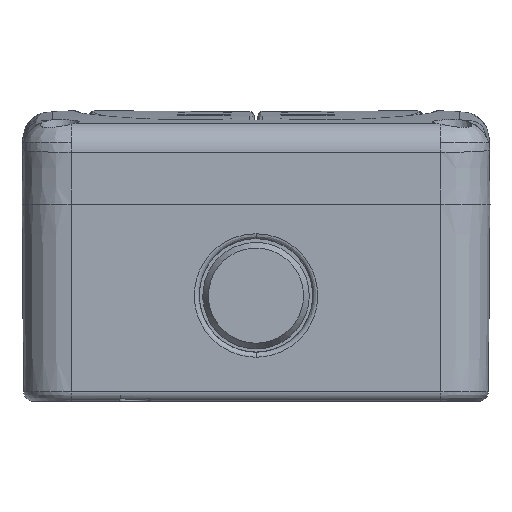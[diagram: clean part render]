
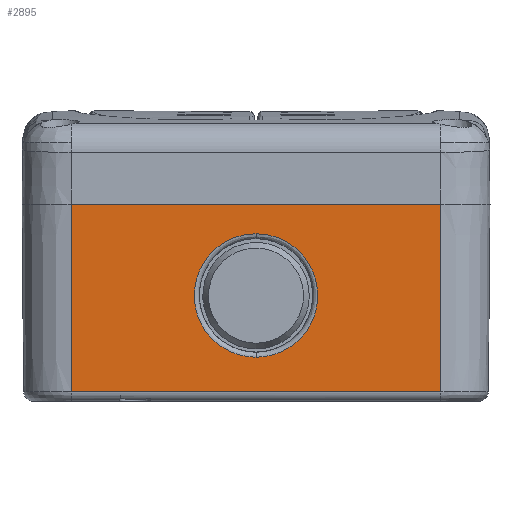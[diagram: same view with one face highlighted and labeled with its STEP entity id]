
A CAD part, front view. The second image highlights one B-rep face of the part: STEP entity #2895.
In plain terms, the highlighted planar face has unit normal (0, -1, -0.009).
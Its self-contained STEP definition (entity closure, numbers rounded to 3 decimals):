
#2564=B_SPLINE_CURVE_WITH_KNOTS('',3,(#15306,#15307,#15308,#15309,#15310,
#15311,#15312,#15313,#15314,#15315,#15316,#15317,#15318,#15319,#15320,#15321),
 .UNSPECIFIED.,.F.,.F.,(4,1,1,1,1,1,1,1,1,1,1,1,1,4),(0.,0.08,
0.155,0.231,0.317,0.414,0.48,
0.551,0.622,0.696,0.774,
0.85,0.923,1.),.UNSPECIFIED.);
#2588=B_SPLINE_CURVE_WITH_KNOTS('',3,(#16304,#16305,#16306,#16307,#16308,
#16309,#16310,#16311,#16312,#16313,#16314,#16315,#16316,#16317,#16318,#16319),
 .UNSPECIFIED.,.F.,.F.,(4,1,1,1,1,1,1,1,1,1,1,1,1,4),(0.,0.08,
0.155,0.231,0.317,0.414,0.48,
0.551,0.622,0.696,0.774,
0.85,0.923,1.),.UNSPECIFIED.);
#2662=FACE_BOUND('',#3466,.T.);
#2663=FACE_BOUND('',#3467,.T.);
#2895=ADVANCED_FACE('',(#2662,#2663),#3004,.T.);
#3004=PLANE('',#8023);
#3466=EDGE_LOOP('',(#4750,#4751,#4752,#4753));
#3467=EDGE_LOOP('',(#4754,#4755));
#4750=ORIENTED_EDGE('',*,*,#6590,.T.);
#4751=ORIENTED_EDGE('',*,*,#6591,.T.);
#4752=ORIENTED_EDGE('',*,*,#6592,.F.);
#4753=ORIENTED_EDGE('',*,*,#6593,.T.);
#4754=ORIENTED_EDGE('',*,*,#6539,.F.);
#4755=ORIENTED_EDGE('',*,*,#6594,.T.);
#5667=VERTEX_POINT('',#15322);
#5668=VERTEX_POINT('',#15323);
#5701=VERTEX_POINT('',#16121);
#5713=VERTEX_POINT('',#16298);
#5714=VERTEX_POINT('',#16299);
#5715=VERTEX_POINT('',#16302);
#6539=EDGE_CURVE('',#5667,#5668,#2564,.T.);
#6590=EDGE_CURVE('',#5713,#5714,#7107,.T.);
#6591=EDGE_CURVE('',#5714,#5701,#7108,.T.);
#6592=EDGE_CURVE('',#5715,#5701,#7109,.T.);
#6593=EDGE_CURVE('',#5715,#5713,#7110,.T.);
#6594=EDGE_CURVE('',#5667,#5668,#2588,.T.);
#7107=LINE('',#16297,#7529);
#7108=LINE('',#16300,#7530);
#7109=LINE('',#16301,#7531);
#7110=LINE('',#16303,#7532);
#7529=VECTOR('',#9207,1.);
#7530=VECTOR('',#9208,1.);
#7531=VECTOR('',#9209,1.);
#7532=VECTOR('',#9210,1.);
#8023=AXIS2_PLACEMENT_3D('',#16320,#9211,#9212);
#9207=DIRECTION('',(0.,0.009,-1.));
#9208=DIRECTION('',(1.,0.,0.));
#9209=DIRECTION('',(0.,0.009,-1.));
#9210=DIRECTION('',(-1.,0.,0.));
#9211=DIRECTION('',(0.,-1.,-0.009));
#9212=DIRECTION('',(1.,0.,0.));
#15306=CARTESIAN_POINT('',(0.,-47.448,-5.983));
#15307=CARTESIAN_POINT('',(-1.044,-47.448,-5.983));
#15308=CARTESIAN_POINT('',(-3.074,-47.446,-6.238));
#15309=CARTESIAN_POINT('',(-5.923,-47.436,-7.337));
#15310=CARTESIAN_POINT('',(-8.496,-47.42,-9.122));
#15311=CARTESIAN_POINT('',(-10.732,-47.398,-11.722));
#15312=CARTESIAN_POINT('',(-12.089,-47.371,-14.734));
#15313=CARTESIAN_POINT('',(-12.601,-47.345,-17.787));
#15314=CARTESIAN_POINT('',(-12.465,-47.321,-20.523));
#15315=CARTESIAN_POINT('',(-11.701,-47.297,-23.265));
#15316=CARTESIAN_POINT('',(-10.293,-47.274,-25.851));
#15317=CARTESIAN_POINT('',(-8.259,-47.255,-28.084));
#15318=CARTESIAN_POINT('',(-5.771,-47.24,-29.749));
#15319=CARTESIAN_POINT('',(-2.98,-47.231,-30.79));
#15320=CARTESIAN_POINT('',(-1.015,-47.229,-31.03));
#15321=CARTESIAN_POINT('',(0.,-47.229,-31.03));
#15322=CARTESIAN_POINT('',(0.,-47.448,-5.983));
#15323=CARTESIAN_POINT('',(0.,-47.229,-31.03));
#16121=CARTESIAN_POINT('',(37.5,-47.168,-38.017));
#16297=CARTESIAN_POINT('',(-37.5,-47.5,0.));
#16298=CARTESIAN_POINT('',(-37.5,-47.5,0.));
#16299=CARTESIAN_POINT('',(-37.5,-47.168,-38.017));
#16300=CARTESIAN_POINT('',(-37.5,-47.168,-38.017));
#16301=CARTESIAN_POINT('',(37.5,-47.5,0.));
#16302=CARTESIAN_POINT('',(37.5,-47.5,0.));
#16303=CARTESIAN_POINT('',(-37.5,-47.5,0.));
#16304=CARTESIAN_POINT('',(0.,-47.448,-5.983));
#16305=CARTESIAN_POINT('',(1.044,-47.448,-5.983));
#16306=CARTESIAN_POINT('',(3.074,-47.446,-6.238));
#16307=CARTESIAN_POINT('',(5.923,-47.436,-7.337));
#16308=CARTESIAN_POINT('',(8.496,-47.42,-9.122));
#16309=CARTESIAN_POINT('',(10.732,-47.398,-11.722));
#16310=CARTESIAN_POINT('',(12.089,-47.371,-14.734));
#16311=CARTESIAN_POINT('',(12.601,-47.345,-17.787));
#16312=CARTESIAN_POINT('',(12.465,-47.321,-20.523));
#16313=CARTESIAN_POINT('',(11.701,-47.297,-23.265));
#16314=CARTESIAN_POINT('',(10.293,-47.274,-25.851));
#16315=CARTESIAN_POINT('',(8.259,-47.255,-28.084));
#16316=CARTESIAN_POINT('',(5.771,-47.24,-29.749));
#16317=CARTESIAN_POINT('',(2.98,-47.231,-30.79));
#16318=CARTESIAN_POINT('',(1.015,-47.229,-31.03));
#16319=CARTESIAN_POINT('',(0.,-47.229,-31.03));
#16320=CARTESIAN_POINT('',(37.509,-47.5,0.009));
